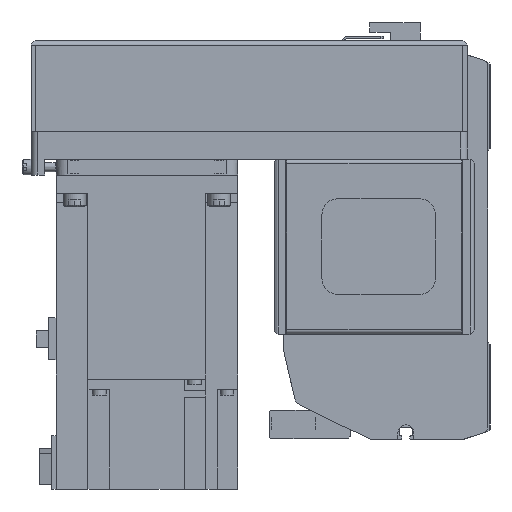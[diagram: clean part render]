
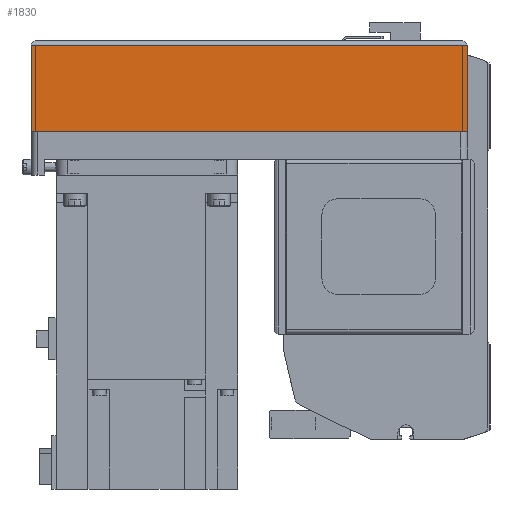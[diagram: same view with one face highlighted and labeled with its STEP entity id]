
A CAD part, left-side view. The second image highlights one B-rep face of the part: STEP entity #1830.
In plain terms, the highlighted planar face has unit normal (-1, 0, 0) as drawn and (0, 1, 0) by its records, which use the part's own axes.
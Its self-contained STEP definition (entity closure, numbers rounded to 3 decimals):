
#1830 = ADVANCED_FACE( '', ( #4372 ), #4373, .T. );
#4372 = FACE_OUTER_BOUND( '', #7804, .T. );
#4373 = PLANE( '', #7805 );
#7804 = EDGE_LOOP( '', ( #12899, #12900, #12901, #12902 ) );
#7805 = AXIS2_PLACEMENT_3D( '', #12903, #12904, #12905 );
#12899 = ORIENTED_EDGE( '', *, *, #20993, .F. );
#12900 = ORIENTED_EDGE( '', *, *, #20994, .F. );
#12901 = ORIENTED_EDGE( '', *, *, #20995, .T. );
#12902 = ORIENTED_EDGE( '', *, *, #20996, .T. );
#12903 = CARTESIAN_POINT( '', ( -192., 40., -50. ) );
#12904 = DIRECTION( '', ( 0., 1., 0. ) );
#12905 = DIRECTION( '', ( 0., 0., 1. ) );
#20993 = EDGE_CURVE( '', #25674, #24188, #25675, .T. );
#20994 = EDGE_CURVE( '', #25676, #25674, #25677, .T. );
#20995 = EDGE_CURVE( '', #25676, #25678, #25679, .T. );
#20996 = EDGE_CURVE( '', #25678, #24188, #25680, .T. );
#24188 = VERTEX_POINT( '', #30127 );
#25674 = VERTEX_POINT( '', #32351 );
#25675 = LINE( '', #32352, #32353 );
#25676 = VERTEX_POINT( '', #32354 );
#25677 = LINE( '', #32355, #32356 );
#25678 = VERTEX_POINT( '', #32357 );
#25679 = LINE( '', #32358, #32359 );
#25680 = LINE( '', #32360, #32361 );
#30127 = CARTESIAN_POINT( '', ( 0., 40., -12.1 ) );
#32351 = CARTESIAN_POINT( '', ( 0., 40., -50. ) );
#32352 = CARTESIAN_POINT( '', ( 0., 40., -50. ) );
#32353 = VECTOR( '', #38338, 1000. );
#32354 = CARTESIAN_POINT( '', ( -192., 40., -50. ) );
#32355 = CARTESIAN_POINT( '', ( -192., 40., -50. ) );
#32356 = VECTOR( '', #38339, 1000. );
#32357 = CARTESIAN_POINT( '', ( -192., 40., -12.1 ) );
#32358 = CARTESIAN_POINT( '', ( -192., 40., -50. ) );
#32359 = VECTOR( '', #38340, 1000. );
#32360 = CARTESIAN_POINT( '', ( -192., 40., -12.1 ) );
#32361 = VECTOR( '', #38341, 1000. );
#38338 = DIRECTION( '', ( 0., 0., 1. ) );
#38339 = DIRECTION( '', ( 1., 0., 0. ) );
#38340 = DIRECTION( '', ( 0., 0., 1. ) );
#38341 = DIRECTION( '', ( 1., 0., 0. ) );
